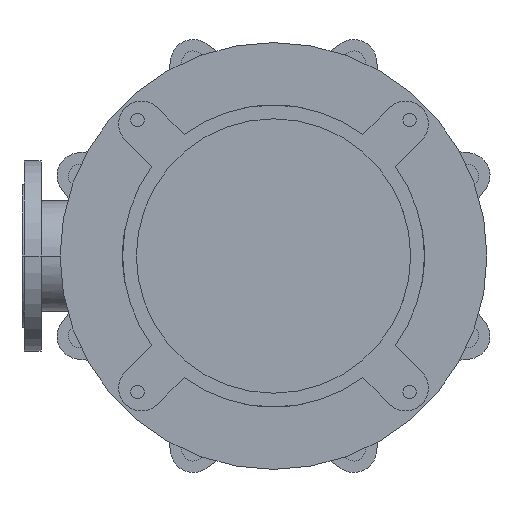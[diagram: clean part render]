
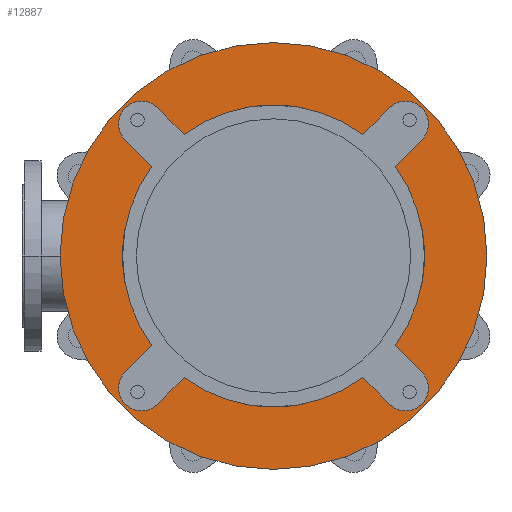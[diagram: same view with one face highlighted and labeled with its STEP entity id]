
A CAD part, front view. The second image highlights one B-rep face of the part: STEP entity #12887.
In plain terms, the highlighted planar face has unit normal (0, -1, 0).
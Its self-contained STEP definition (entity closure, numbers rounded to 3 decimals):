
#2492=CARTESIAN_POINT('',(0.,-25.,0.));
#2493=DIRECTION('',(0.,1.,0.));
#2494=DIRECTION('',(0.592,0.,-0.806));
#2495=AXIS2_PLACEMENT_3D('',#2492,#2493,#2494);
#2510=CARTESIAN_POINT('',(0.,-25.,0.));
#2511=DIRECTION('',(0.,1.,0.));
#2512=DIRECTION('',(0.806,0.,0.592));
#2513=AXIS2_PLACEMENT_3D('',#2510,#2511,#2512);
#2537=CARTESIAN_POINT('',(0.,-25.,0.));
#2538=DIRECTION('',(0.,1.,0.));
#2539=DIRECTION('',(-0.806,0.,-0.592));
#2540=AXIS2_PLACEMENT_3D('',#2537,#2538,#2539);
#2546=CARTESIAN_POINT('',(0.,-25.,0.));
#2547=DIRECTION('',(0.,1.,0.));
#2548=DIRECTION('',(-0.592,0.,0.806));
#2549=AXIS2_PLACEMENT_3D('',#2546,#2547,#2548);
#2724=CARTESIAN_POINT('',(0.,-25.,0.));
#2725=DIRECTION('',(0.,-1.,0.));
#2726=DIRECTION('',(-1.,0.,0.));
#2727=AXIS2_PLACEMENT_3D('',#2724,#2725,#2726);
#2729=CARTESIAN_POINT('',(0.,-25.,0.));
#2730=DIRECTION('',(0.,1.,0.));
#2731=DIRECTION('',(-1.,0.,0.));
#2732=AXIS2_PLACEMENT_3D('',#2729,#2730,#2731);
#2734=CARTESIAN_POINT('',(-173.241,-25.,173.241));
#2735=DIRECTION('',(0.,-1.,0.));
#2736=DIRECTION('',(0.707,0.,0.707));
#2737=AXIS2_PLACEMENT_3D('',#2734,#2735,#2736);
#2739=DIRECTION('',(0.707,0.,-0.707));
#2740=VECTOR('',#2739,49.286);
#2741=CARTESIAN_POINT('',(-194.454,-25.,152.028));
#2742=LINE('',#2741,#2740);
#2743=DIRECTION('',(-0.707,0.,-0.707));
#2744=VECTOR('',#2743,49.286);
#2745=CARTESIAN_POINT('',(-159.604,-25.,-117.178));
#2746=LINE('',#2745,#2744);
#2747=CARTESIAN_POINT('',(-173.241,-25.,-173.241));
#2748=DIRECTION('',(0.,-1.,0.));
#2749=DIRECTION('',(-0.707,0.,0.707));
#2750=AXIS2_PLACEMENT_3D('',#2747,#2748,#2749);
#2752=DIRECTION('',(0.707,0.,0.707));
#2753=VECTOR('',#2752,49.286);
#2754=CARTESIAN_POINT('',(-152.028,-25.,-194.454));
#2755=LINE('',#2754,#2753);
#2756=DIRECTION('',(0.707,0.,-0.707));
#2757=VECTOR('',#2756,49.286);
#2758=CARTESIAN_POINT('',(117.178,-25.,-159.604));
#2759=LINE('',#2758,#2757);
#2760=CARTESIAN_POINT('',(173.241,-25.,-173.241));
#2761=DIRECTION('',(0.,-1.,0.));
#2762=DIRECTION('',(-0.707,0.,-0.707));
#2763=AXIS2_PLACEMENT_3D('',#2760,#2761,#2762);
#2765=DIRECTION('',(-0.707,0.,0.707));
#2766=VECTOR('',#2765,49.286);
#2767=CARTESIAN_POINT('',(194.454,-25.,-152.028));
#2768=LINE('',#2767,#2766);
#2769=DIRECTION('',(0.707,0.,0.707));
#2770=VECTOR('',#2769,49.286);
#2771=CARTESIAN_POINT('',(159.604,-25.,117.178));
#2772=LINE('',#2771,#2770);
#2773=CARTESIAN_POINT('',(173.241,-25.,173.241));
#2774=DIRECTION('',(0.,-1.,0.));
#2775=DIRECTION('',(0.707,0.,-0.707));
#2776=AXIS2_PLACEMENT_3D('',#2773,#2774,#2775);
#2778=DIRECTION('',(-0.707,0.,-0.707));
#2779=VECTOR('',#2778,49.286);
#2780=CARTESIAN_POINT('',(152.028,-25.,194.454));
#2781=LINE('',#2780,#2779);
#2782=DIRECTION('',(-0.707,0.,0.707));
#2783=VECTOR('',#2782,49.286);
#2784=CARTESIAN_POINT('',(-117.178,-25.,159.604));
#2785=LINE('',#2784,#2783);
#8414=CARTESIAN_POINT('',(-280.,-25.,0.));
#8415=CARTESIAN_POINT('',(280.,-25.,0.));
#8416=VERTEX_POINT('',#8414);
#8417=VERTEX_POINT('',#8415);
#8438=CARTESIAN_POINT('',(-194.454,-25.,-152.028));
#8439=CARTESIAN_POINT('',(-152.028,-25.,-194.454));
#8440=VERTEX_POINT('',#8438);
#8441=VERTEX_POINT('',#8439);
#8442=CARTESIAN_POINT('',(-117.178,-25.,-159.604));
#8443=VERTEX_POINT('',#8442);
#8444=CARTESIAN_POINT('',(-159.604,-25.,-117.178));
#8445=VERTEX_POINT('',#8444);
#8454=CARTESIAN_POINT('',(152.028,-25.,-194.454));
#8455=CARTESIAN_POINT('',(194.454,-25.,-152.028));
#8456=VERTEX_POINT('',#8454);
#8457=VERTEX_POINT('',#8455);
#8458=CARTESIAN_POINT('',(159.604,-25.,-117.178));
#8459=VERTEX_POINT('',#8458);
#8460=CARTESIAN_POINT('',(117.178,-25.,-159.604));
#8461=VERTEX_POINT('',#8460);
#8470=CARTESIAN_POINT('',(194.454,-25.,152.028));
#8471=CARTESIAN_POINT('',(152.028,-25.,194.454));
#8472=VERTEX_POINT('',#8470);
#8473=VERTEX_POINT('',#8471);
#8474=CARTESIAN_POINT('',(117.178,-25.,159.604));
#8475=VERTEX_POINT('',#8474);
#8476=CARTESIAN_POINT('',(159.604,-25.,117.178));
#8477=VERTEX_POINT('',#8476);
#8486=CARTESIAN_POINT('',(-152.028,-25.,194.454));
#8487=CARTESIAN_POINT('',(-194.454,-25.,152.028));
#8488=VERTEX_POINT('',#8486);
#8489=VERTEX_POINT('',#8487);
#8490=CARTESIAN_POINT('',(-159.604,-25.,117.178));
#8491=VERTEX_POINT('',#8490);
#8492=CARTESIAN_POINT('',(-117.178,-25.,159.604));
#8493=VERTEX_POINT('',#8492);
#12847=CARTESIAN_POINT('',(0.,-25.,0.));
#12848=DIRECTION('',(0.,-1.,0.));
#12849=DIRECTION('',(-1.,0.,0.));
#12850=AXIS2_PLACEMENT_3D('',#12847,#12848,#12849);
#12851=PLANE('',#12850);
#12853=ORIENTED_EDGE('',*,*,#12852,.F.);
#12855=ORIENTED_EDGE('',*,*,#12854,.T.);
#12856=EDGE_LOOP('',(#12853,#12855));
#12857=FACE_OUTER_BOUND('',#12856,.F.);
#12859=ORIENTED_EDGE('',*,*,#12858,.T.);
#12861=ORIENTED_EDGE('',*,*,#12860,.T.);
#12862=ORIENTED_EDGE('',*,*,#12800,.F.);
#12864=ORIENTED_EDGE('',*,*,#12863,.T.);
#12866=ORIENTED_EDGE('',*,*,#12865,.T.);
#12868=ORIENTED_EDGE('',*,*,#12867,.T.);
#12869=ORIENTED_EDGE('',*,*,#12753,.F.);
#12870=ORIENTED_EDGE('',*,*,#12837,.T.);
#12872=ORIENTED_EDGE('',*,*,#12871,.T.);
#12874=ORIENTED_EDGE('',*,*,#12873,.T.);
#12875=ORIENTED_EDGE('',*,*,#12774,.F.);
#12877=ORIENTED_EDGE('',*,*,#12876,.T.);
#12879=ORIENTED_EDGE('',*,*,#12878,.T.);
#12881=ORIENTED_EDGE('',*,*,#12880,.T.);
#12882=ORIENTED_EDGE('',*,*,#12818,.F.);
#12884=ORIENTED_EDGE('',*,*,#12883,.T.);
#12885=EDGE_LOOP('',(#12859,#12861,#12862,#12864,#12866,#12868,#12869,#12870,
#12872,#12874,#12875,#12877,#12879,#12881,#12882,#12884));
#12886=FACE_BOUND('',#12885,.F.);
#12887=ADVANCED_FACE('',(#12857,#12886),#12851,.T.);
#2496=CIRCLE('',#2495,198.);
#2514=CIRCLE('',#2513,198.);
#2541=CIRCLE('',#2540,198.);
#2550=CIRCLE('',#2549,198.);
#2728=CIRCLE('',#2727,280.);
#2733=CIRCLE('',#2732,280.);
#2738=CIRCLE('',#2737,30.);
#2751=CIRCLE('',#2750,30.);
#2764=CIRCLE('',#2763,30.);
#2777=CIRCLE('',#2776,30.);
#12753=EDGE_CURVE('',#8461,#8443,#2496,.T.);
#12774=EDGE_CURVE('',#8477,#8459,#2514,.T.);
#12800=EDGE_CURVE('',#8445,#8491,#2541,.T.);
#12818=EDGE_CURVE('',#8493,#8475,#2550,.T.);
#12837=EDGE_CURVE('',#8461,#8456,#2759,.T.);
#12852=EDGE_CURVE('',#8416,#8417,#2728,.T.);
#12854=EDGE_CURVE('',#8416,#8417,#2733,.T.);
#12858=EDGE_CURVE('',#8488,#8489,#2738,.T.);
#12860=EDGE_CURVE('',#8489,#8491,#2742,.T.);
#12863=EDGE_CURVE('',#8445,#8440,#2746,.T.);
#12865=EDGE_CURVE('',#8440,#8441,#2751,.T.);
#12867=EDGE_CURVE('',#8441,#8443,#2755,.T.);
#12871=EDGE_CURVE('',#8456,#8457,#2764,.T.);
#12873=EDGE_CURVE('',#8457,#8459,#2768,.T.);
#12876=EDGE_CURVE('',#8477,#8472,#2772,.T.);
#12878=EDGE_CURVE('',#8472,#8473,#2777,.T.);
#12880=EDGE_CURVE('',#8473,#8475,#2781,.T.);
#12883=EDGE_CURVE('',#8493,#8488,#2785,.T.);
